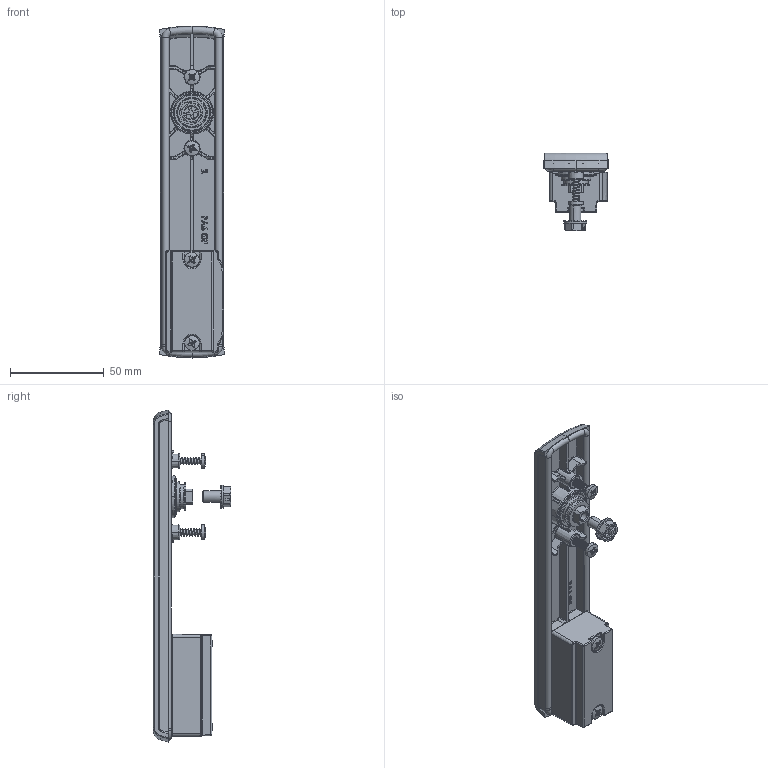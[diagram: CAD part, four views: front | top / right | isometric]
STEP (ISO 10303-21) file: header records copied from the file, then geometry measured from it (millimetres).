
FILE_DESCRIPTION (( 'STEP AP214' ), '1' );
FILE_NAME ('1B.RW435.M.STEP', '2022-02-04T07:46:52', ( '' ), ( '' ), 'SwSTEP 2.0', 'SolidWorks 2021', '' );
FILE_SCHEMA (( 'AUTOMOTIVE_DESIGN' ));
Length unit declared in the file: millimetre
Products named in the file (9): 2.PT.001_A; DIN 7981_F.4.1x25; 1B.RS300.02.02.00_A; DIN 3771_16x2; S6PZ_M6x10; DIN 7981_F.4.1x22; P.014951_00-00; 1B.RW435.M; P.014252_00-01
Assembly tree (10 placements, depth 2):
  1B.RW435.M
    P.014252_00-01
    2.PT.001_A
    S6PZ_M6x10
    DIN 7981_F.4.1x22  x2
    P.014951_00-00
    DIN 3771_16x2
    1B.RS300.02.02.00_A
    DIN 7981_F.4.1x25  x2
Bounding box: 34.28 x 41.2 x 177 mm (x, y, z)
Volume: 44547.3 mm3; surface area: 43746.2 mm2
Topology: 11 solids, 11 shells, 1974 faces, 4717 edges, 2800 vertices
Faces by surface type: plane 537, cylinder 504, bspline 341, torus 235, cone 182, sphere 175
Entity records: 63787 total; most frequent: CARTESIAN_POINT 23449, ORIENTED_EDGE 8728, DIRECTION 8041, EDGE_CURVE 4364, AXIS2_PLACEMENT_3D 3227, VERTEX_POINT 2569, EDGE_LOOP 1899, ADVANCED_FACE 1850
